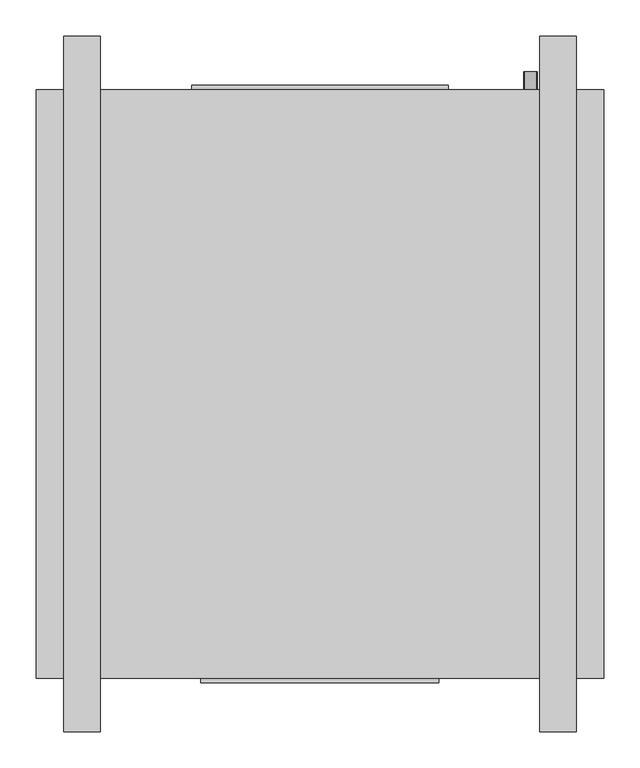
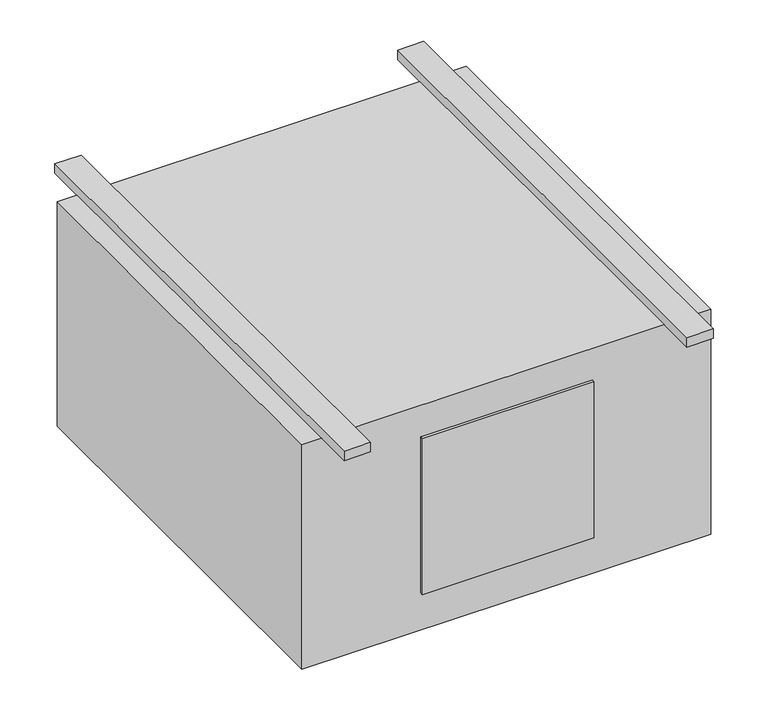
"""IFC4 building model written with IfcOpenShell, lengths in millimetres: proxy geometry, Exposed_High_Capacity_Horizontal_Cabinet_Fan_Coil_Unit_-_42DFA_-_CARRIER_-_2-Pipe_Cool-EHeat_RH_2022 : Size 06 - 277v/60Hz/1Ph - 6 Row 4.0kW."""

from ifc_helpers import new_model, si_unit, point, frame, frame_2d, origin, origin_with_axes, place, context, project, spatial, polyline, circle_curve, trimmed, segment, composite_curve, outline, extrude, source, transform, mapped, element, save


def mechanical_equipment_26f8894d(model_context):
    return source(origin(), model_context, "Body", "SweptSolid", [
        extrude(outline(composite_curve([segment(trimmed(circle_curve(frame_2d((-406.4, 444.5)), 9.525), [point((-406.4, 434.975))], [point((-406.4, 454.025))], False, "CARTESIAN"), True, "CONTINUOUS"), segment(trimmed(circle_curve(frame_2d((-406.4, 444.5)), 9.525), [point((-406.4, 454.025))], [point((-406.4, 434.975))], False, "CARTESIAN"), True, "CONTINUOUS")], self_intersect=False)), frame((0.0, 169.8625, 0.0), z_axis=(0.0, 1.0, 0.0), x_axis=(0.0, 0.0, 1.0)), (0.0, 0.0, 1.0), 25.4),
        extrude(outline(composite_curve([segment(trimmed(circle_curve(frame_2d((-330.2, 444.5)), 7.9375), [point((-330.2, 436.5625))], [point((-330.2, 452.4375))], False, "CARTESIAN"), True, "CONTINUOUS"), segment(trimmed(circle_curve(frame_2d((-330.2, 444.5)), 7.9375), [point((-330.2, 452.4375))], [point((-330.2, 436.5625))], False, "CARTESIAN"), True, "CONTINUOUS")], self_intersect=False)), frame((0.0, 169.8625, 0.0), z_axis=(0.0, 1.0, 0.0), x_axis=(0.0, 0.0, 1.0)), (0.0, 0.0, 1.0), 25.4),
        extrude(outline(composite_curve([segment(trimmed(circle_curve(frame_2d((-254.0, 444.5)), 7.9375), [point((-254.0, 436.5625))], [point((-254.0, 452.4375))], False, "CARTESIAN"), True, "CONTINUOUS"), segment(trimmed(circle_curve(frame_2d((-254.0, 444.5)), 7.9375), [point((-254.0, 452.4375))], [point((-254.0, 436.5625))], False, "CARTESIAN"), True, "CONTINUOUS")], self_intersect=False)), frame((0.0, 169.8625, 0.0), z_axis=(0.0, 1.0, 0.0), x_axis=(0.0, 0.0, 1.0)), (0.0, 0.0, 1.0), 25.4),
        extrude(outline(polyline([(546.1, 169.8625), (546.1, -646.1125), (-241.3, -646.1125), (-241.3, 169.8625), (546.1, 169.8625)])), frame((0.0, 0.0, -457.2), z_axis=(0.0, 0.0, 1.0), x_axis=(1.0, 0.0, 0.0)), (0.0, 0.0, 1.0), 457.2),
        extrude(outline(polyline([(-25.4, 176.2125), (330.2, 176.2125), (330.2, 169.8625), (-25.4, 169.8625), (-25.4, 176.2125)])), frame((0.0, 0.0, -381.0), z_axis=(0.0, 0.0, 1.0), x_axis=(1.0, 0.0, 0.0)), (0.0, 0.0, 1.0), 355.6),
        extrude(outline(polyline([(-152.4, 244.475), (-152.4, -720.725), (-203.2, -720.725), (-203.2, 244.475), (-152.4, 244.475)])), origin_with_axes(), (0.0, 0.0, 1.0), 19.05),
        extrude(outline(polyline([(508.0, 244.475), (508.0, -720.725), (457.2, -720.725), (457.2, 244.475), (508.0, 244.475)])), origin_with_axes(), (0.0, 0.0, 1.0), 19.05),
        extrude(outline(polyline([(317.5, -652.4625), (-12.7, -652.4625), (-12.7, -646.1125), (317.5, -646.1125), (317.5, -652.4625)])), frame((0.0, 0.0, -381.0), z_axis=(0.0, 0.0, 1.0), x_axis=(1.0, 0.0, 0.0)), (0.0, 0.0, 1.0), 317.5),
    ])


if __name__ == "__main__":
    model = new_model("IFC4")
    model_context = context("Model", 3, world=origin())
    ifc_project = project(units=[si_unit("LENGTHUNIT", "METRE", prefix="MILLI")], contexts=[model_context])
    site = spatial("IfcSite", under=ifc_project)
    building = spatial("IfcBuilding", under=site)
    placement = place(None, origin())
    mechanical_equipment_shape = mechanical_equipment_26f8894d(model_context)
    element("IfcBuildingElementProxy", 1, Name="Exposed_High_Capacity_Horizontal_Cabinet_Fan_Coil_Unit_-_42DFA_-_CARRIER_-_2-Pipe_Cool-EHeat_RH_2022 : Size 06 - 277v/60Hz/1Ph - 6 Row 4.0kW", ObjectType="Exposed_High_Capacity_Horizontal_Cabinet_Fan_Coil_Unit_-_42DFA_-_CARRIER_-_2-Pipe_Cool-EHeat_RH_2022 : Size 06 - 277v/60Hz/1Ph - 6 Row 4.0kW", at=placement, inside=building, context=model_context, shape_type="MappedRepresentation", body=[
        mapped(mechanical_equipment_shape, transform((0.0, 0.0, 0.0), x_axis=(1.0, 0.0, 0.0), y_axis=(0.0, 1.0, 0.0), z_axis=(0.0, 0.0, 1.0))),
    ])
    save(model, "model.ifc")
